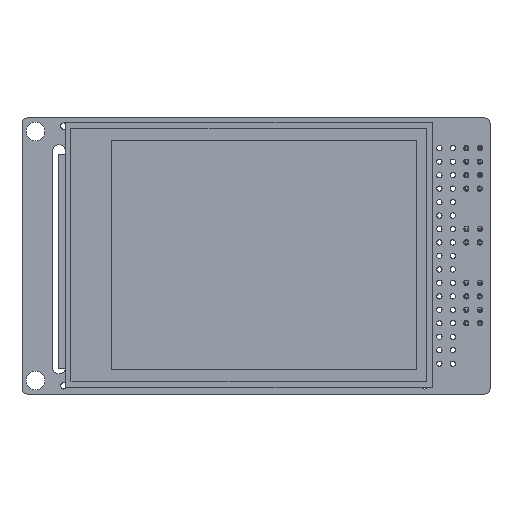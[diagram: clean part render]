
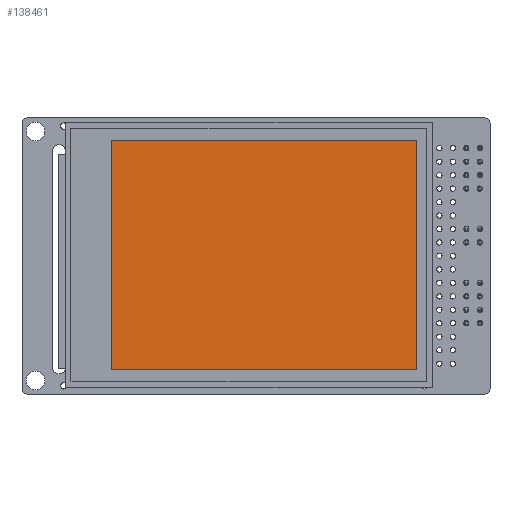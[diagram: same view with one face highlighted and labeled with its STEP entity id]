
A CAD part, top view. The second image highlights one B-rep face of the part: STEP entity #138461.
In plain terms, the highlighted planar face has unit normal (0, 0, 1).
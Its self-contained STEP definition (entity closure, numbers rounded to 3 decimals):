
#138332 = VERTEX_POINT('',#138333);
#138333 = CARTESIAN_POINT('',(28.8,-21.6,3.62));
#138339 = EDGE_CURVE('',#138332,#138340,#138342,.T.);
#138340 = VERTEX_POINT('',#138341);
#138341 = CARTESIAN_POINT('',(28.8,21.6,3.62));
#138342 = LINE('',#138343,#138344);
#138343 = CARTESIAN_POINT('',(28.8,-21.6,3.62));
#138344 = VECTOR('',#138345,1.);
#138345 = DIRECTION('',(0.,1.,0.));
#138370 = EDGE_CURVE('',#138340,#138371,#138373,.T.);
#138371 = VERTEX_POINT('',#138372);
#138372 = CARTESIAN_POINT('',(-28.8,21.6,3.62));
#138373 = LINE('',#138374,#138375);
#138374 = CARTESIAN_POINT('',(28.8,21.6,3.62));
#138375 = VECTOR('',#138376,1.);
#138376 = DIRECTION('',(-1.,0.,0.));
#138401 = EDGE_CURVE('',#138371,#138402,#138404,.T.);
#138402 = VERTEX_POINT('',#138403);
#138403 = CARTESIAN_POINT('',(-28.8,-21.6,3.62));
#138404 = LINE('',#138405,#138406);
#138405 = CARTESIAN_POINT('',(-28.8,21.6,3.62));
#138406 = VECTOR('',#138407,1.);
#138407 = DIRECTION('',(0.,-1.,0.));
#138432 = EDGE_CURVE('',#138402,#138332,#138433,.T.);
#138433 = LINE('',#138434,#138435);
#138434 = CARTESIAN_POINT('',(-28.8,-21.6,3.62));
#138435 = VECTOR('',#138436,1.);
#138436 = DIRECTION('',(1.,0.,0.));
#138461 = ADVANCED_FACE('',(#138462),#138468,.T.);
#138462 = FACE_BOUND('',#138463,.T.);
#138463 = EDGE_LOOP('',(#138464,#138465,#138466,#138467));
#138464 = ORIENTED_EDGE('',*,*,#138339,.T.);
#138465 = ORIENTED_EDGE('',*,*,#138370,.T.);
#138466 = ORIENTED_EDGE('',*,*,#138401,.T.);
#138467 = ORIENTED_EDGE('',*,*,#138432,.T.);
#138468 = PLANE('',#138469);
#138469 = AXIS2_PLACEMENT_3D('',#138470,#138471,#138472);
#138470 = CARTESIAN_POINT('',(0.,0.,3.62));
#138471 = DIRECTION('',(0.,0.,1.));
#138472 = DIRECTION('',(1.,0.,-0.));
